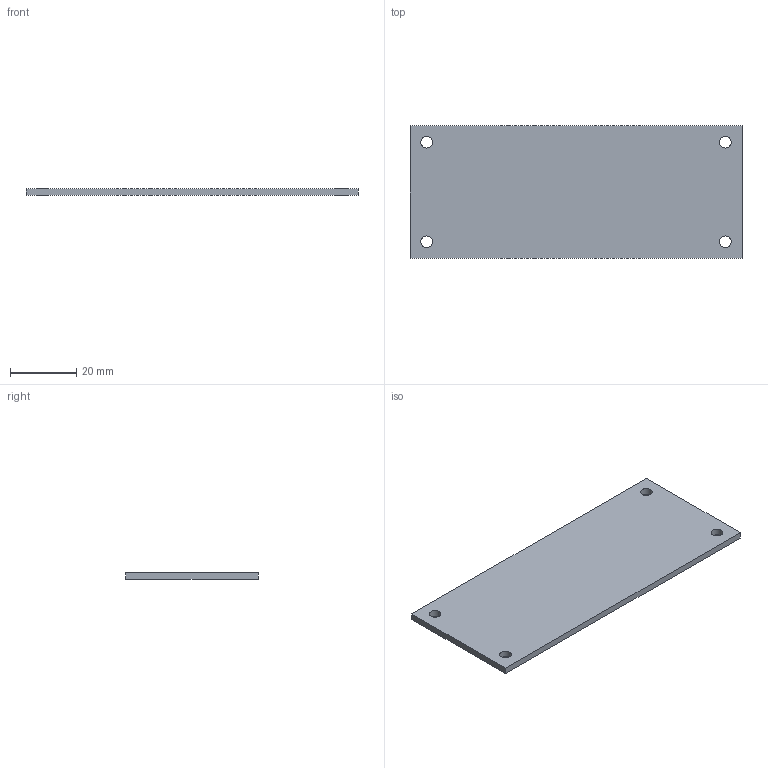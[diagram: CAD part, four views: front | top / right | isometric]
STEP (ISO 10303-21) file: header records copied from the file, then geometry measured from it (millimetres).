
FILE_DESCRIPTION(/* description */ (''),/* implementation_level */ '2;1');
FILE_NAME(/* name */ '/Users/davidflorian/Library/Mobile Documents/com~apple~CloudDocs/Vanderbilt/Papers/OTTO/Supplemental Material/3D-Printable-Components-STEP-Files/Backplate.step',/* time_stamp */ '2020-06-30T23:29:42-05:00',/* author */ (''),/* organization */ (''),/* preprocessor_version */ 'ST-DEVELOPER v18.1',/* originating_system */ 'Autodesk Translation Framework v9.3.0.1241',/* authorisation */ '');
FILE_SCHEMA (('AUTOMOTIVE_DESIGN { 1 0 10303 214 3 1 1 }'));
Length unit declared in the file: millimetre
Products named in the file (1): Button and Powder Input Housing Cover
Bounding box: 100 x 40 x 2 mm (x, y, z)
Volume: 7923 mm3; surface area: 8571 mm2
Topology: 1 solids, 1 shells, 10 faces, 24 edges, 16 vertices
Faces by surface type: plane 6, cylinder 4
Full cylindrical faces by diameter (mm): 3.5 x4
Entity records: 345 total; most frequent: DIRECTION 54, CARTESIAN_POINT 51, ORIENTED_EDGE 48, EDGE_CURVE 24, AXIS2_PLACEMENT_3D 19, EDGE_LOOP 18, LINE 16, VECTOR 16
